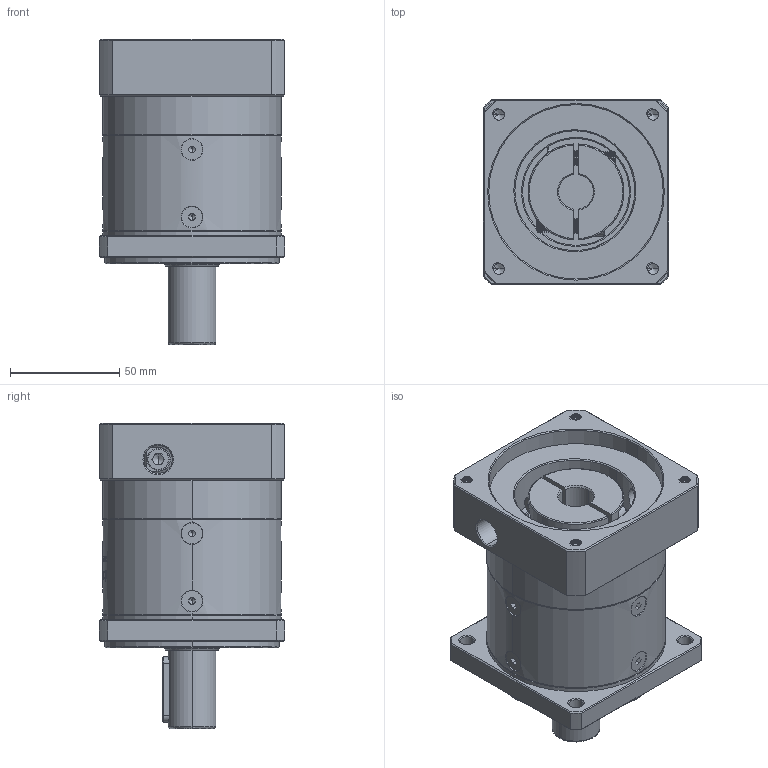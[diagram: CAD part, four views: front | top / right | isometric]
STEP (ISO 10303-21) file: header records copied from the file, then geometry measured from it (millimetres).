
FILE_DESCRIPTION (( 'STEP AP214' ), '1' );
FILE_NAME ('ZF80-D22-L1-16-80-100-M6.step', '2022-05-08T09:17:11', ( '' ), ( 'Microsoft' ), 'SwSTEP 2.0', 'SolidWorks 2016', '' );
FILE_SCHEMA (( 'AUTOMOTIVE_DESIGN' ));
Length unit declared in the file: millimetre
Products named in the file (1): ZF80-D22-L1-16-80-100-M6
Bounding box: 85 x 85 x 140 mm (x, y, z)
Volume: 538192.1 mm3; surface area: 89323.2 mm2
Topology: 13 solids, 13 shells, 1978 faces, 5116 edges, 3232 vertices
Faces by surface type: plane 896, cylinder 408, cone 337, bspline 320, torus 17
Entity records: 107723 total; most frequent: CARTESIAN_POINT 41331, ORIENTED_EDGE 10172, DIRECTION 8017, EDGE_CURVE 5086, VERTEX_POINT 3232, LINE 2761, VECTOR 2761, AXIS2_PLACEMENT_3D 2628
